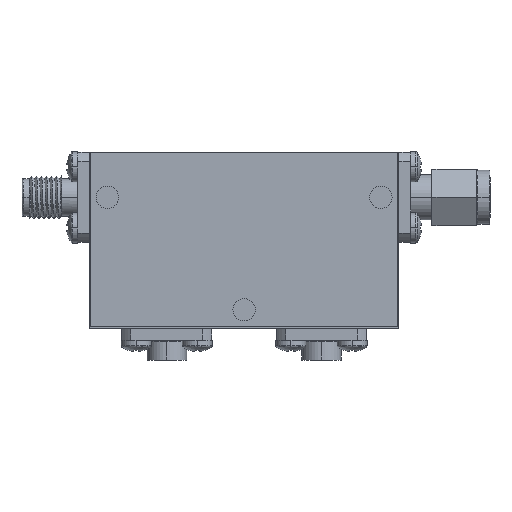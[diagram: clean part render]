
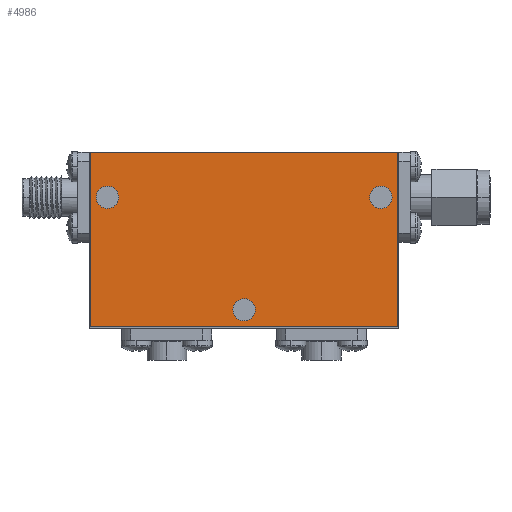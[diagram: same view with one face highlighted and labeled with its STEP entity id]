
A CAD part, top view. The second image highlights one B-rep face of the part: STEP entity #4986.
In plain terms, the highlighted planar face has unit normal (0, 0, 1).
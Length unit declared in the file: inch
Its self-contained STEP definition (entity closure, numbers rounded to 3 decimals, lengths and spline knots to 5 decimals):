
#200 = EDGE_CURVE ( 'NONE', #697, #3199, #4885, .T. ) ;
#404 = VERTEX_POINT ( 'NONE', #6778 ) ;
#413 = DIRECTION ( 'NONE',  ( 0., 0., 1. ) ) ;
#511 = CARTESIAN_POINT ( 'NONE',  ( -0.855, 0.4725, 0.504 ) ) ;
#546 = ORIENTED_EDGE ( 'NONE', *, *, #948, .T. ) ;
#631 = VERTEX_POINT ( 'NONE', #6586 ) ;
#697 = VERTEX_POINT ( 'NONE', #5926 ) ;
#722 = AXIS2_PLACEMENT_3D ( 'NONE', #6456, #3757, #6486 ) ;
#948 = EDGE_CURVE ( 'NONE', #2877, #1822, #4117, .T. ) ;
#961 = EDGE_LOOP ( 'NONE', ( #4582, #3946 ) ) ;
#964 = EDGE_LOOP ( 'NONE', ( #5525, #2506 ) ) ;
#985 = EDGE_CURVE ( 'NONE', #1822, #404, #2751, .T. ) ;
#996 = DIRECTION ( 'NONE',  ( 0., 1., 0. ) ) ;
#1109 = CIRCLE ( 'NONE', #3616, 0.0625 ) ;
#1171 = DIRECTION ( 'NONE',  ( 1., 0., 0. ) ) ;
#1191 = DIRECTION ( 'NONE',  ( 0., 0., 1. ) ) ;
#1215 = FACE_BOUND ( 'NONE', #961, .T. ) ;
#1234 = EDGE_LOOP ( 'NONE', ( #3205, #4655, #5092, #546 ) ) ;
#1428 = ORIENTED_EDGE ( 'NONE', *, *, #6319, .F. ) ;
#1536 = VERTEX_POINT ( 'NONE', #3889 ) ;
#1552 = LINE ( 'NONE', #511, #4580 ) ;
#1764 = VECTOR ( 'NONE', #4396, 39.37008 ) ;
#1809 = AXIS2_PLACEMENT_3D ( 'NONE', #1917, #4092, #6735 ) ;
#1822 = VERTEX_POINT ( 'NONE', #2232 ) ;
#1888 = AXIS2_PLACEMENT_3D ( 'NONE', #3328, #1191, #6001 ) ;
#1917 = CARTESIAN_POINT ( 'NONE',  ( -0.76, 0.2225, 0.504 ) ) ;
#2009 = CARTESIAN_POINT ( 'NONE',  ( 0.8225, 0.2225, 0.504 ) ) ;
#2083 = DIRECTION ( 'NONE',  ( -1., 0., 0. ) ) ;
#2218 = CARTESIAN_POINT ( 'NONE',  ( 0.76, 0.2225, 0.504 ) ) ;
#2232 = CARTESIAN_POINT ( 'NONE',  ( 0.855, -0.4975, 0.504 ) ) ;
#2506 = ORIENTED_EDGE ( 'NONE', *, *, #2520, .F. ) ;
#2520 = EDGE_CURVE ( 'NONE', #1536, #631, #1109, .T. ) ;
#2537 = DIRECTION ( 'NONE',  ( 1., 0., 0. ) ) ;
#2568 = CARTESIAN_POINT ( 'NONE',  ( 0.76, 0.2225, 0.504 ) ) ;
#2595 = VECTOR ( 'NONE', #2537, 39.37008 ) ;
#2751 = LINE ( 'NONE', #4231, #3690 ) ;
#2781 = FACE_OUTER_BOUND ( 'NONE', #1234, .T. ) ;
#2877 = VERTEX_POINT ( 'NONE', #5887 ) ;
#2878 = ORIENTED_EDGE ( 'NONE', *, *, #6015, .F. ) ;
#2988 = EDGE_CURVE ( 'NONE', #5192, #2877, #3779, .T. ) ;
#3042 = AXIS2_PLACEMENT_3D ( 'NONE', #2568, #4146, #6811 ) ;
#3071 = CARTESIAN_POINT ( 'NONE',  ( 0., -0.4025, 0.504 ) ) ;
#3124 = CARTESIAN_POINT ( 'NONE',  ( 0.6975, 0.2225, 0.504 ) ) ;
#3199 = VERTEX_POINT ( 'NONE', #4005 ) ;
#3205 = ORIENTED_EDGE ( 'NONE', *, *, #985, .T. ) ;
#3236 = DIRECTION ( 'NONE',  ( 0., 0., 1. ) ) ;
#3328 = CARTESIAN_POINT ( 'NONE',  ( 0., -0.4025, 0.504 ) ) ;
#3580 = CARTESIAN_POINT ( 'NONE',  ( -0.855, -0.4975, 0.504 ) ) ;
#3616 = AXIS2_PLACEMENT_3D ( 'NONE', #4893, #5403, #4937 ) ;
#3690 = VECTOR ( 'NONE', #996, 39.37008 ) ;
#3757 = DIRECTION ( 'NONE',  ( 0., 0., 1. ) ) ;
#3779 = LINE ( 'NONE', #5907, #1764 ) ;
#3889 = CARTESIAN_POINT ( 'NONE',  ( -0.8225, 0.2225, 0.504 ) ) ;
#3946 = ORIENTED_EDGE ( 'NONE', *, *, #4787, .F. ) ;
#4000 = CARTESIAN_POINT ( 'NONE',  ( -0.855, 0.4725, 0.504 ) ) ;
#4005 = CARTESIAN_POINT ( 'NONE',  ( -0.0625, -0.4025, 0.504 ) ) ;
#4064 = FACE_BOUND ( 'NONE', #964, .T. ) ;
#4092 = DIRECTION ( 'NONE',  ( 0., 0., 1. ) ) ;
#4117 = LINE ( 'NONE', #3580, #2595 ) ;
#4141 = CIRCLE ( 'NONE', #6239, 0.0625 ) ;
#4146 = DIRECTION ( 'NONE',  ( 0., 0., 1. ) ) ;
#4161 = DIRECTION ( 'NONE',  ( 1., 0., 0. ) ) ;
#4228 = FACE_BOUND ( 'NONE', #5573, .T. ) ;
#4231 = CARTESIAN_POINT ( 'NONE',  ( 0.855, 0.4725, 0.504 ) ) ;
#4355 = EDGE_CURVE ( 'NONE', #404, #5192, #1552, .T. ) ;
#4396 = DIRECTION ( 'NONE',  ( 0., -1., 0. ) ) ;
#4454 = CIRCLE ( 'NONE', #4947, 0.0625 ) ;
#4580 = VECTOR ( 'NONE', #2083, 39.37008 ) ;
#4582 = ORIENTED_EDGE ( 'NONE', *, *, #200, .F. ) ;
#4655 = ORIENTED_EDGE ( 'NONE', *, *, #4355, .T. ) ;
#4782 = VERTEX_POINT ( 'NONE', #2009 ) ;
#4787 = EDGE_CURVE ( 'NONE', #3199, #697, #4141, .T. ) ;
#4845 = PLANE ( 'NONE',  #722 ) ;
#4885 = CIRCLE ( 'NONE', #1888, 0.0625 ) ;
#4893 = CARTESIAN_POINT ( 'NONE',  ( -0.76, 0.2225, 0.504 ) ) ;
#4937 = DIRECTION ( 'NONE',  ( 1., 0., 0. ) ) ;
#4947 = AXIS2_PLACEMENT_3D ( 'NONE', #2218, #3236, #1171 ) ;
#4986 = ADVANCED_FACE ( 'NONE', ( #4228, #1215, #4064, #2781 ), #4845, .T. ) ;
#5092 = ORIENTED_EDGE ( 'NONE', *, *, #2988, .T. ) ;
#5192 = VERTEX_POINT ( 'NONE', #4000 ) ;
#5403 = DIRECTION ( 'NONE',  ( 0., 0., 1. ) ) ;
#5525 = ORIENTED_EDGE ( 'NONE', *, *, #6832, .F. ) ;
#5573 = EDGE_LOOP ( 'NONE', ( #1428, #2878 ) ) ;
#5887 = CARTESIAN_POINT ( 'NONE',  ( -0.855, -0.4975, 0.504 ) ) ;
#5907 = CARTESIAN_POINT ( 'NONE',  ( -0.855, 0.4725, 0.504 ) ) ;
#5926 = CARTESIAN_POINT ( 'NONE',  ( 0.0625, -0.4025, 0.504 ) ) ;
#6001 = DIRECTION ( 'NONE',  ( 1., 0., 0. ) ) ;
#6015 = EDGE_CURVE ( 'NONE', #6123, #4782, #6910, .T. ) ;
#6123 = VERTEX_POINT ( 'NONE', #3124 ) ;
#6239 = AXIS2_PLACEMENT_3D ( 'NONE', #3071, #413, #4161 ) ;
#6319 = EDGE_CURVE ( 'NONE', #4782, #6123, #4454, .T. ) ;
#6456 = CARTESIAN_POINT ( 'NONE',  ( 0., 0., 0.504 ) ) ;
#6461 = CIRCLE ( 'NONE', #1809, 0.0625 ) ;
#6486 = DIRECTION ( 'NONE',  ( 1., 0., 0. ) ) ;
#6586 = CARTESIAN_POINT ( 'NONE',  ( -0.6975, 0.2225, 0.504 ) ) ;
#6735 = DIRECTION ( 'NONE',  ( 1., 0., 0. ) ) ;
#6778 = CARTESIAN_POINT ( 'NONE',  ( 0.855, 0.4725, 0.504 ) ) ;
#6811 = DIRECTION ( 'NONE',  ( 1., 0., 0. ) ) ;
#6832 = EDGE_CURVE ( 'NONE', #631, #1536, #6461, .T. ) ;
#6910 = CIRCLE ( 'NONE', #3042, 0.0625 ) ;
